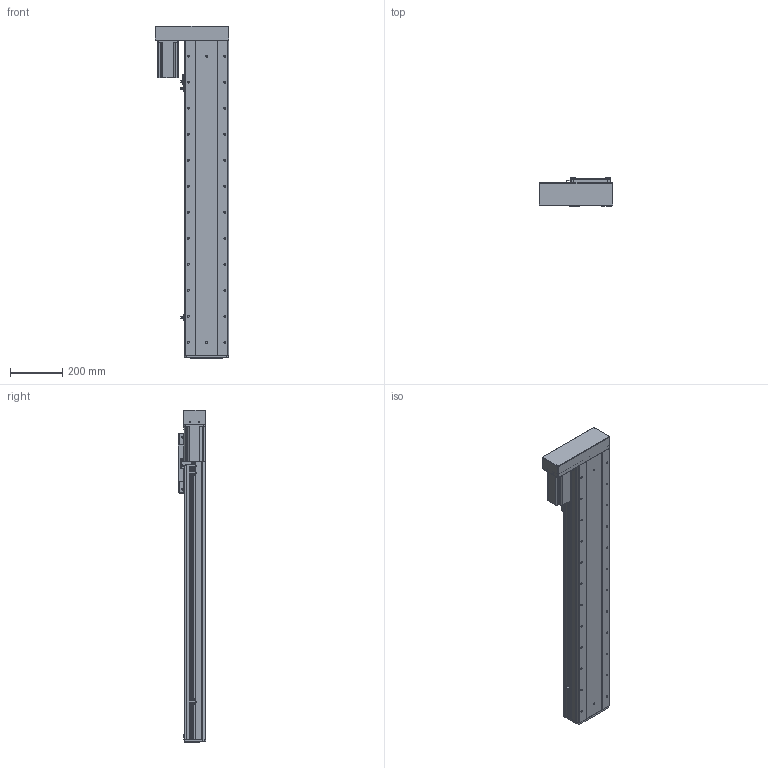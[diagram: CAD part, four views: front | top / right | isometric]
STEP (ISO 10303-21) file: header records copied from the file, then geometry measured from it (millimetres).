
FILE_DESCRIPTION (( 'STEP AP203' ), '1' );
FILE_NAME ('RY170F-L2020-300-LK.SLDASM_900.step', '2021-03-02T09:00:49', ( '盈信电脑' ), ( '东莞市道滘镇水果街19号' ), 'SwSTEP 2.0', 'SolidWorks 2012', '' );
FILE_SCHEMA (( 'CONFIG_CONTROL_DESIGN' ));
Length unit declared in the file: millimetre
Products named in the file (20): 滅袉蝶18-24; RY170F-酘衵殏萇儂釱; RY170F-蛌殏萇儂假蚾啣; 侐源滅袉蝶; RY170F-詩湍揤踡輸; RY170F-揤踡謫假蚾粣; RY170F俋离覜茼え; 覜茼ん672; RY170F-綴裔啣; 滅袉蝶18-10; RY100F-詩湍揤踡謫; RY170F-丝杆铝滑块连接板; RY170F-佪裝臏賑輸20蹟譫; RY170F-300眻蟀倰第奻裔啣-LK_900; RY170F-滅鳥奻裔; RY170F-300眻蟀倰第菁釱-LK_900; RY170F-300眻蟀祥凄詩湍-LK_900; RY170F酘衵殏萇儂欶; RY170F-L2020-300-LK.SLDASM_900; 怢湛750W萇儂ㄗ80遺ㄘ
Assembly tree (24 placements, depth 2):
  RY170F-L2020-300-LK.SLDASM_900
    RY170F-滅鳥奻裔
    RY170F-300眻蟀祥凄詩湍-LK_900
    RY170F-300眻蟀倰第菁釱-LK_900
    RY170F-佪裝臏賑輸20蹟譫
    RY170F-丝杆铝滑块连接板
    RY170F-300眻蟀倰第奻裔啣-LK_900  x2
    滅袉蝶18-10
    RY100F-詩湍揤踡謫
    RY170F-綴裔啣
    覜茼ん672  x3
    RY170F俋离覜茼え
    RY170F-揤踡謫假蚾粣
    RY170F-詩湍揤踡輸  x2
    滅袉蝶18-24
    侐源滅袉蝶  x2
    RY170F-酘衵殏萇儂釱
    RY170F-蛌殏萇儂假蚾啣
    怢湛750W萇儂ㄗ80遺ㄘ
    RY170F酘衵殏萇儂欶
Bounding box: 283 x 107 x 1276 mm (x, y, z)
Volume: 7452946.3 mm3; surface area: 2438205.8 mm2
Topology: 24 solids, 24 shells, 1897 faces, 5250 edges, 3318 vertices
Faces by surface type: cylinder 905, plane 760, cone 224, bspline 8
Entity records: 54383 total; most frequent: CARTESIAN_POINT 10914, DIRECTION 8851, ORIENTED_EDGE 8400, EDGE_CURVE 4200, AXIS2_PLACEMENT_3D 3205, VERTEX_POINT 2738, VECTOR 2441, LINE 2441
